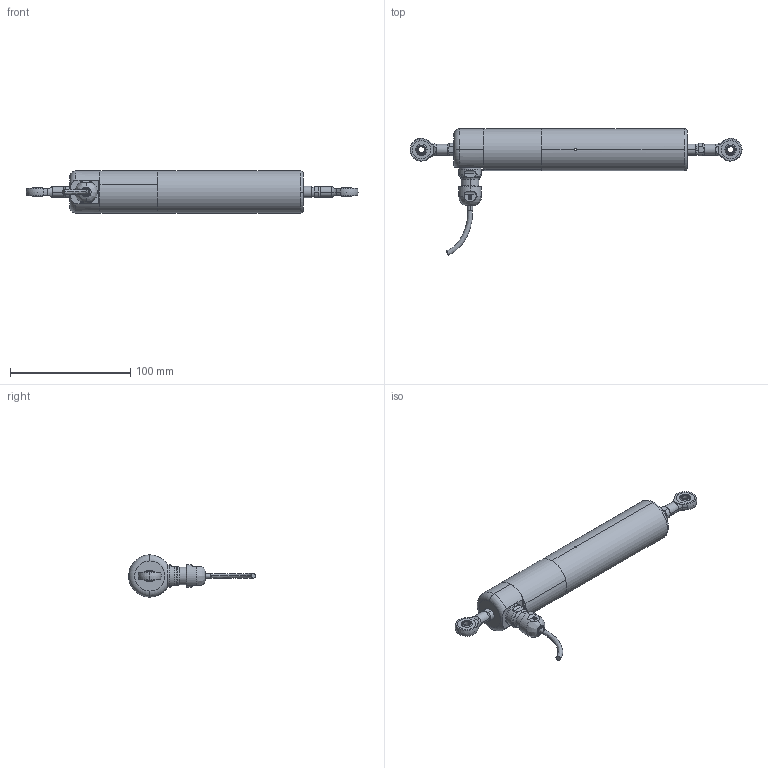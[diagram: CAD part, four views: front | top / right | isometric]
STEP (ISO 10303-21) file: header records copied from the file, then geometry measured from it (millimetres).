
FILE_DESCRIPTION (( 'STEP AP214' ), '1' );
FILE_NAME ('S114-5AI50NU.STEP', '2025-04-10T10:33:46', ( '' ), ( '' ), 'SwSTEP 2.0', 'SolidWorks 2023', '' );
FILE_SCHEMA (( 'AUTOMOTIVE_DESIGN' ));
Length unit declared in the file: millimetre
Products named in the file (1): S114-5AI50NU
Bounding box: 276 x 105.27 x 35 mm (x, y, z)
Surface area: 33264 mm2 (no closed solid volume)
Topology: 0 solids, 19 shells, 187 faces, 545 edges, 380 vertices
Faces by surface type: cylinder 69, plane 64, cone 22, torus 20, sphere 8, bspline 4
Entity records: 7027 total; most frequent: CARTESIAN_POINT 2168, DIRECTION 1042, ORIENTED_EDGE 909, EDGE_CURVE 531, AXIS2_PLACEMENT_3D 430, VERTEX_POINT 374, CIRCLE 246, EDGE_LOOP 229
